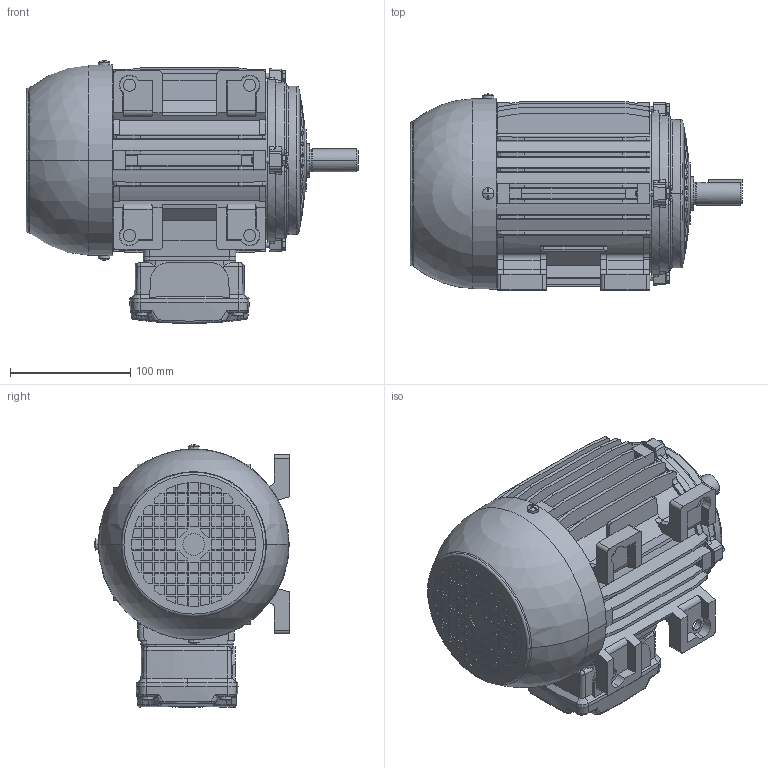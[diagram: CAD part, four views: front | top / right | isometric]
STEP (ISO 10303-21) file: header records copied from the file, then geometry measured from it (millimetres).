
FILE_DESCRIPTION (( 'STEP AP203' ), '1' );
FILE_NAME ('80_RIGHT.STEP', '2007-06-27T11:51:26', ( '' ), ( '' ), 'SwSTEP 2.0', 'SolidWorks 2006303', '' );
FILE_SCHEMA (( 'CONFIG_CONTROL_DESIGN' ));
Length unit declared in the file: millimetre
Products named in the file (1): 80_RIGHT
Bounding box: 276 x 162.91 x 218.41 mm (x, y, z)
Volume: 4145186.9 mm3; surface area: 266523 mm2
Topology: 1 solids, 2 shells, 1762 faces, 4639 edges, 3000 vertices
Faces by surface type: plane 997, cylinder 231, cone 182, bspline 180, torus 120, sphere 52
Entity records: 60706 total; most frequent: CARTESIAN_POINT 18777, ORIENTED_EDGE 9262, DIRECTION 8022, EDGE_CURVE 4631, VERTEX_POINT 3000, AXIS2_PLACEMENT_3D 2712, VECTOR 2598, LINE 2598
